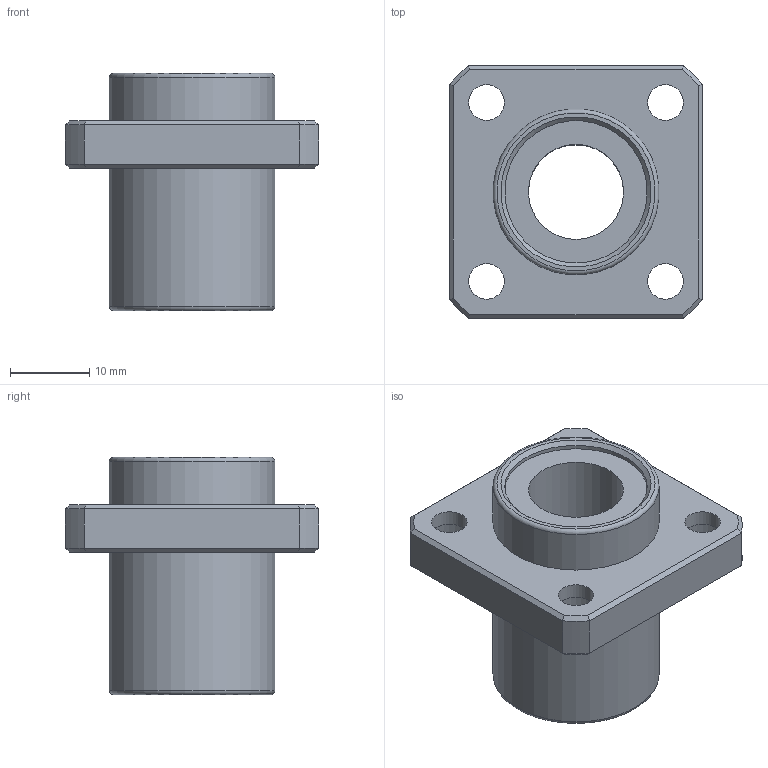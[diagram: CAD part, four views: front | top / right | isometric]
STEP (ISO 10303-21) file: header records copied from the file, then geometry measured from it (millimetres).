
FILE_DESCRIPTION(/* description */ (''),/* implementation_level */ '2;1');
FILE_NAME(/* name */ 'LMKP12UU',/* time_stamp */ '2019-07-10T08:51:22+02:00',/* author */ ('VĂ©gh MĂˇtĂ©'),/* organization */ ('Bearing Kft'),/* preprocessor_version */ 'ST-DEVELOPER v16.7',/* originating_system */ 'DEX',/* authorisation */ $);
FILE_SCHEMA (('AUTOMOTIVE_DESIGN {1 0 10303 214 3 1 1}'));
Length unit declared in the file: millimetre
Products named in the file (1): LMKP12UU
Bounding box: 32 x 32 x 30 mm (x, y, z)
Volume: 9817.4 mm3; surface area: 5532.7 mm2
Topology: 1 solids, 1 shells, 364 faces, 905 edges, 598 vertices
Faces by surface type: plane 270, bspline 62, cylinder 20, cone 10, torus 2
Full cylindrical faces by diameter (mm): 4.5 x4, 7.5 x4, 12 x1, 18 x2, 21 x2
Entity records: 13287 total; most frequent: CARTESIAN_POINT 5058, ORIENTED_EDGE 1766, DIRECTION 1401, EDGE_CURVE 883, LINE 691, VECTOR 691, VERTEX_POINT 594, EDGE_LOOP 447
